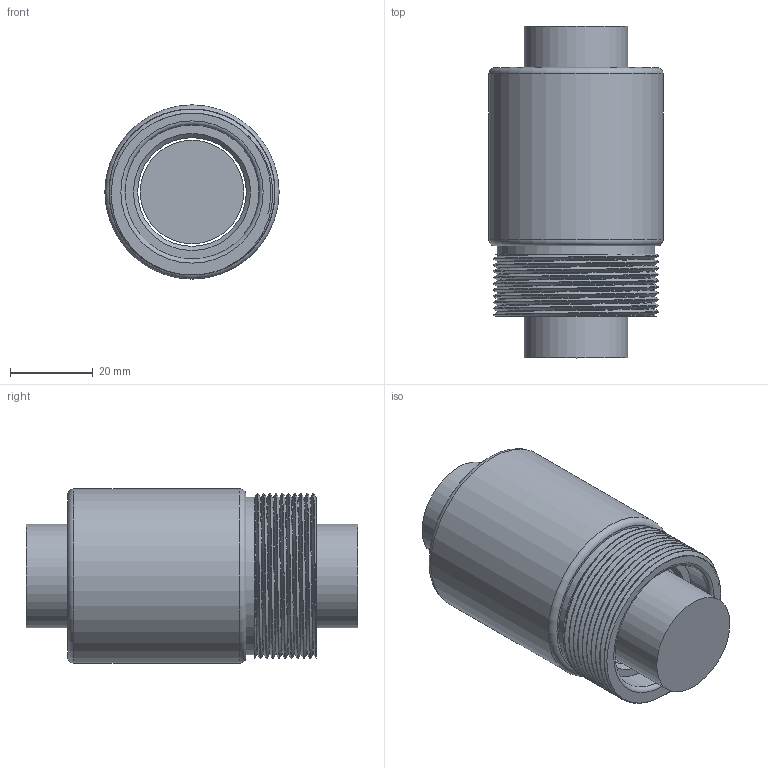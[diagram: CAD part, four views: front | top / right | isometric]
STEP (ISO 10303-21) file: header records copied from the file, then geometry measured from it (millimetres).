
FILE_DESCRIPTION(/* description */ (''),/* implementation_level */ '2;1');
FILE_NAME(/* name */ '2505.prt.step',/* time_stamp */ '2008-12-05T09:41:59+08:00',/* author */ (''),/* organization */ (''),/* preprocessor_version */ 'ST-DEVELOPER v11',/* originating_system */ 'SIEMENS UGS NX 6.0',/* authorisation */ '');
FILE_SCHEMA (('AUTOMOTIVE_DESIGN { 1 0 10303 214 1 1 1 1 }'));
Length unit declared in the file: millimetre
Products named in the file (1): 2505
Bounding box: 42 x 80 x 42 mm (x, y, z)
Volume: 82327.7 mm3; surface area: 23021 mm2
Topology: 2 solids, 2 shells, 24 faces, 45 edges, 29 vertices
Faces by surface type: cylinder 8, plane 8, torus 4, bspline 2, cone 2
Full cylindrical faces by diameter (mm): 24.95 x1, 26.2 x1, 32.3 x2, 38 x1, 42 x1
Entity records: 2378 total; most frequent: CARTESIAN_POINT 1927, DIRECTION 90, ORIENTED_EDGE 60, AXIS2_PLACEMENT_3D 45, EDGE_LOOP 42, FACE_BOUND 36, EDGE_CURVE 30, VERTEX_POINT 26
